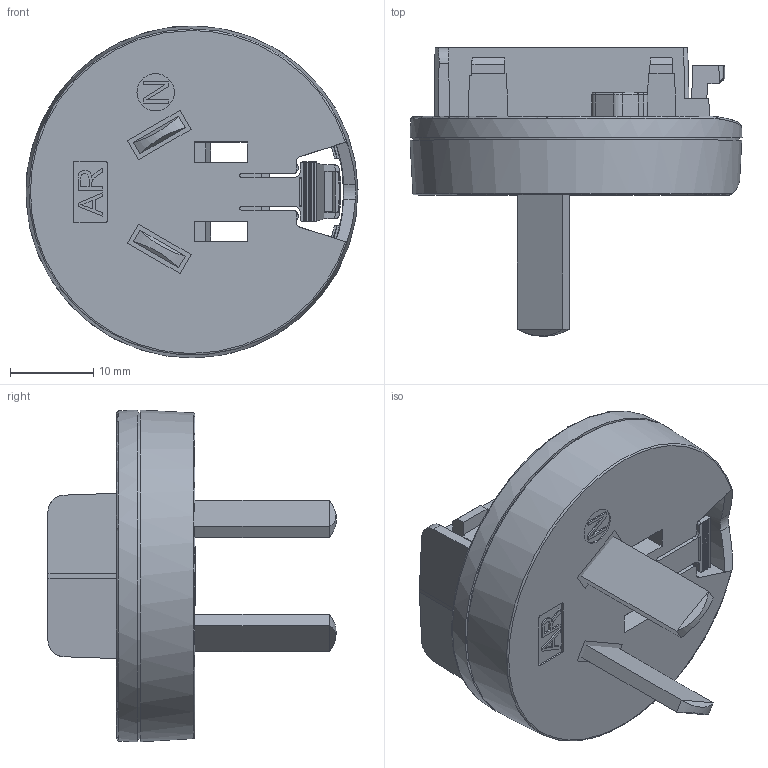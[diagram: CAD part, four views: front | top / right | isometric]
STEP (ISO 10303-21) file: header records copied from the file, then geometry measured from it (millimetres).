
FILE_DESCRIPTION(/* description */ (''),/* implementation_level */ '2;1');
FILE_NAME(/* name */ 'C:\作業區\插頭\5OE0004101H8.stp',/* time_stamp */ '2019-11-06T17:16:51+08:00',/* author */ ('user'),/* organization */ (''),/* preprocessor_version */ 'ST-DEVELOPER v16.1',/* originating_system */ 'Autodesk Inventor 2016',/* authorisation */ '');
FILE_SCHEMA (('AUTOMOTIVE_DESIGN { 1 0 10303 214 3 1 1 }'));
Length unit declared in the file: millimetre
Products named in the file (9): PRT0007_AU_________V_BOTTOM_ANY; ASM0004_ASM_1_ASM_ASM_AU________ASM; FSP065-10AABA_AU PLUG_20150612; 65W_AU_PLUG_20150331_ANY_ASM_AS_ASM; 120404-1_2_1_1; 120404-2_2_1_1; AU-PLUG-120404_ASM_8_ASM_1_ASM__ASM_1; 65W_AU_PLUG_20150331_ASM_ASM_AS_ASM; 5OE0004101H8
Assembly tree (9 placements, depth 5):
  5OE0004101H8
    65W_AU_PLUG_20150331_ASM_ASM_AS_ASM
      65W_AU_PLUG_20150331_ANY_ASM_AS_ASM
        ASM0004_ASM_1_ASM_ASM_AU________ASM
          PRT0007_AU_________V_BOTTOM_ANY
        FSP065-10AABA_AU PLUG_20150612
      AU-PLUG-120404_ASM_8_ASM_1_ASM__ASM_1  x2
        120404-1_2_1_1
        120404-2_2_1_1
Bounding box: 39.99 x 34.69 x 39.98 mm (x, y, z)
Volume: 7812.8 mm3; surface area: 10924 mm2
Topology: 6 solids, 6 shells, 657 faces, 1837 edges, 1205 vertices
Faces by surface type: plane 493, cylinder 99, cone 47, torus 10, bspline 8
Full cylindrical faces by diameter (mm): 4.5 x1, 37.8 x1, 39.4 x1
Entity records: 20747 total; most frequent: CARTESIAN_POINT 5104, ORIENTED_EDGE 3342, DIRECTION 3112, EDGE_CURVE 1671, LINE 1242, VECTOR 1242, VERTEX_POINT 1098, AXIS2_PLACEMENT_3D 935
